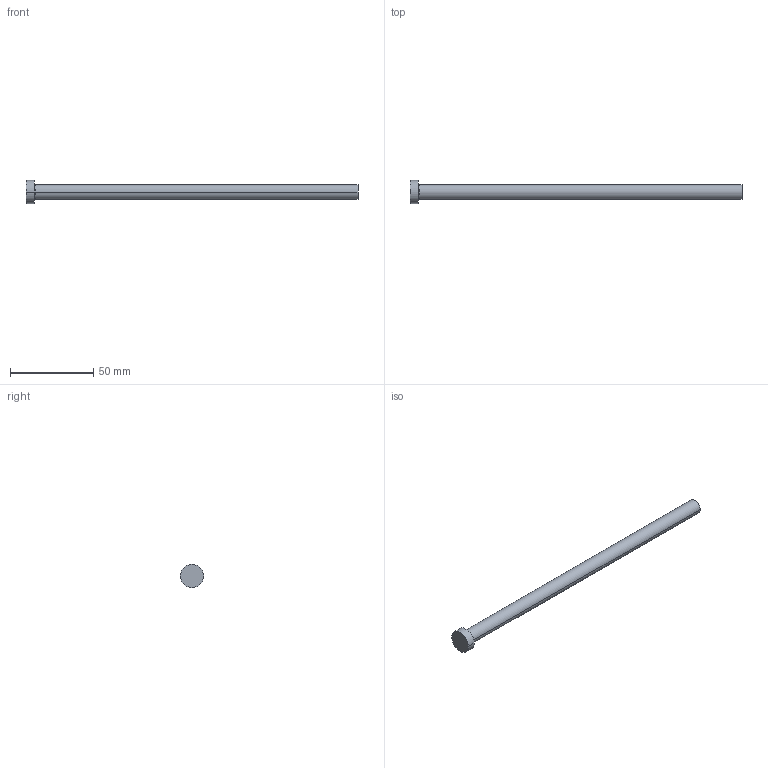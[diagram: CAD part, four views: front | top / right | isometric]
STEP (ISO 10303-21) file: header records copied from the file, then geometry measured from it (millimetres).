
FILE_DESCRIPTION (( 'STEP AP214' ), '1' );
FILE_NAME ('A-9x200.STEP', '2020-05-29T15:56:39', ( 'August' ), ( '' ), 'SwSTEP 2.0', 'SolidWorks 2018', '' );
FILE_SCHEMA (( 'AUTOMOTIVE_DESIGN' ));
Length unit declared in the file: millimetre
Products named in the file (1): A-9x200
Bounding box: 200 x 14 x 14 mm (x, y, z)
Volume: 13176.6 mm3; surface area: 6035.3 mm2
Topology: 1 solids, 1 shells, 9 faces, 16 edges, 10 vertices
Faces by surface type: cylinder 4, plane 3, torus 2
Entity records: 260 total; most frequent: DIRECTION 48, CARTESIAN_POINT 36, ORIENTED_EDGE 32, AXIS2_PLACEMENT_3D 22, EDGE_CURVE 16, CIRCLE 12, VERTEX_POINT 10, EDGE_LOOP 10
